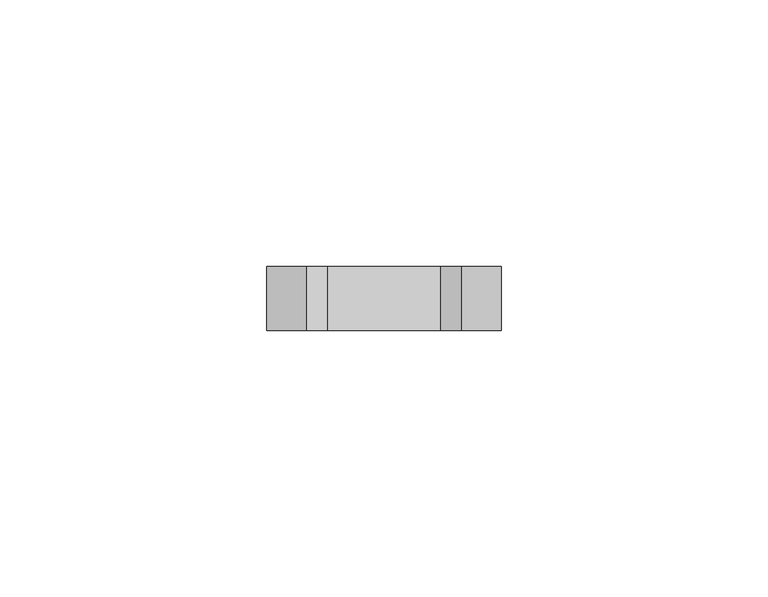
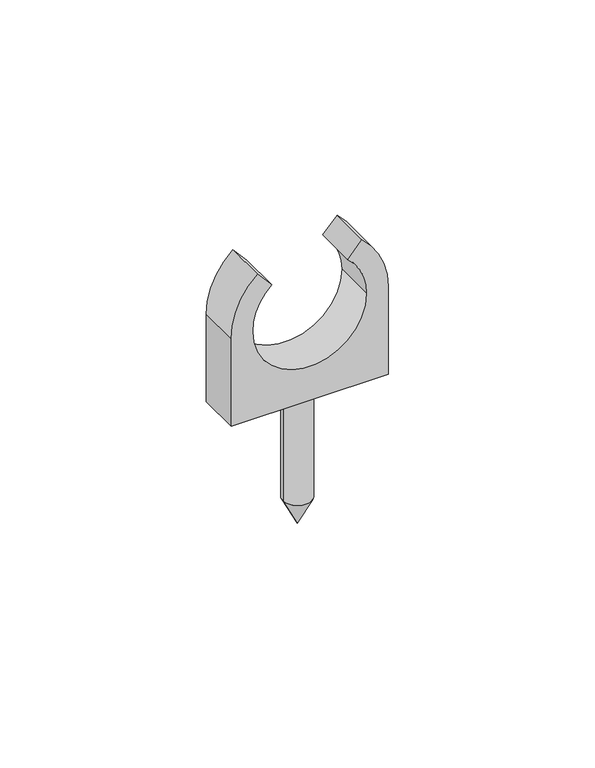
"""IFC4 building model written with IfcOpenShell, lengths in millimetres: cable carrier fitting geometry."""

from ifc_helpers import new_model, si_unit, point, frame, frame_2d, origin, place, context, project, spatial, polyline, circle_curve, trimmed, segment, composite_curve, outline, extrude, source, transform, mapped, element, save
from ifc_brep_helpers import plane_surface, cylinder_surface, revolved_surface, advanced_brep


def cable_carrier_fitting_1d412742(model_context):
    return source(origin(), model_context, "Body", "SolidModel", [
        advanced_brep(
        [(0.0, 0.0, -40.0), (-4.0, 0.0, -32.0), (4.0, 0.0, -32.0), (4.0, 0.0, 0.0), (-4.0, 0.0, 0.0), (0.0, 0.0, 0.0)],
        [
            (0, 1),
            (1, 2, circle_curve(frame((0.0, 0.0, -32.0), z_axis=(0.0, 0.0, -1.0), x_axis=(-1.0, 0.0, 0.0)), 4.0)),
            (2, 0),
            (2, 1, circle_curve(frame((0.0, 0.0, -32.0), z_axis=(0.0, 0.0, -1.0), x_axis=(-1.0, 0.0, 0.0)), 4.0)),
            (3, 4, circle_curve(frame((0.0, 0.0, 0.0), z_axis=(0.0, 0.0, 1.0), x_axis=(-1.0, 0.0, 0.0)), 4.0)),
            (4, 5),
            (5, 3),
            (4, 3, circle_curve(frame((0.0, 0.0, 0.0), z_axis=(0.0, 0.0, 1.0), x_axis=(-1.0, 0.0, 0.0)), 4.0)),
            (1, 4),
            (3, 2),
        ],
        [
            revolved_surface(polyline([(-4.0, 0.0, -32.0), (0.0, 0.0, -40.0)]), (0.0, 0.0, 2637.0581012), (0.0, 0.0, -1.0)),
            plane_surface(frame((0.0, 0.0, 0.0), z_axis=(0.0, 0.0, 1.0), x_axis=(-1.0, 0.0, 0.0))),
            cylinder_surface(frame((0.0, 0.0, 2637.0581012), z_axis=(0.0, 0.0, -1.0), x_axis=(-1.0, 0.0, 0.0)), 4.0),
        ],
        [
            (0, [[1, 2, 3]]),
            (0, [[-3, 4, -1]]),
            (1, [[5, 6, 7]]),
            (1, [[8, -7, -6]]),
            (2, [[-2, 9, -5, 10]]),
            (2, [[-4, -10, -8, -9]]),
        ],
    ),
        extrude(outline(composite_curve([segment(polyline([(0.0, -22.0), (0.0, 22.0), (26.0, 22.0)]), True, "CONTINUOUS"), segment(trimmed(circle_curve(frame_2d((26.0, 0.0)), 22.0), [point((26.0, 22.0))], [point((42.4630517, 14.5934207))], False, "CARTESIAN"), True, "CONTINUOUS"), segment(polyline([(42.4630517, 14.5934207), (37.9731285, 10.6133969)]), True, "CONTINUOUS"), segment(trimmed(circle_curve(frame_2d((26.0, 0.0)), 16.0), [point((37.9731285, 10.6133969))], [point((26.0, 16.0))], True, "CARTESIAN"), True, "CONTINUOUS"), segment(trimmed(circle_curve(frame_2d((26.0, 0.0)), 16.0), [point((26.0, 16.0))], [point((26.0, -16.0))], True, "CARTESIAN"), True, "CONTINUOUS"), segment(trimmed(circle_curve(frame_2d((26.0, 0.0)), 16.0), [point((26.0, -16.0))], [point((37.9731285, -10.6133969))], True, "CARTESIAN"), True, "CONTINUOUS"), segment(polyline([(37.9731285, -10.6133969), (42.4630517, -14.5934207)]), True, "CONTINUOUS"), segment(trimmed(circle_curve(frame_2d((26.0, 0.0)), 22.0), [point((42.4630517, -14.5934207))], [point((26.0, -22.0))], False, "CARTESIAN"), True, "CONTINUOUS"), segment(polyline([(26.0, -22.0), (0.0, -22.0)]), True, "CONTINUOUS")], self_intersect=False)), frame((0.0, -6.0, 0.0), z_axis=(0.0, 1.0, 0.0), x_axis=(0.0, 0.0, 1.0)), (0.0, 0.0, 1.0), 12.0),
    ])


if __name__ == "__main__":
    model = new_model("IFC4")
    model_context = context("Model", 3, world=origin())
    ifc_project = project(units=[si_unit("LENGTHUNIT", "METRE", prefix="MILLI")], contexts=[model_context])
    site = spatial("IfcSite", under=ifc_project)
    building = spatial("IfcBuilding", under=site)
    placement = place(None, origin())
    cable_carrier_fitting_shape = cable_carrier_fitting_1d412742(model_context)
    element("IfcCableCarrierFitting", 1, at=placement, inside=building, context=model_context, shape_type="MappedRepresentation", body=[
        mapped(cable_carrier_fitting_shape, transform((0.0, 0.0, 0.0), x_axis=(1.0, 0.0, 0.0), y_axis=(0.0, 1.0, 0.0), z_axis=(0.0, 0.0, 1.0))),
    ])
    save(model, "model.ifc")
